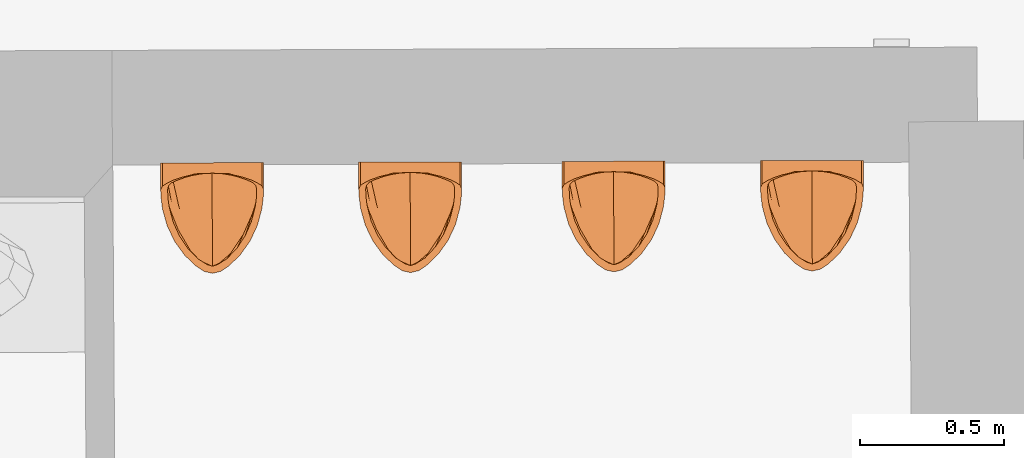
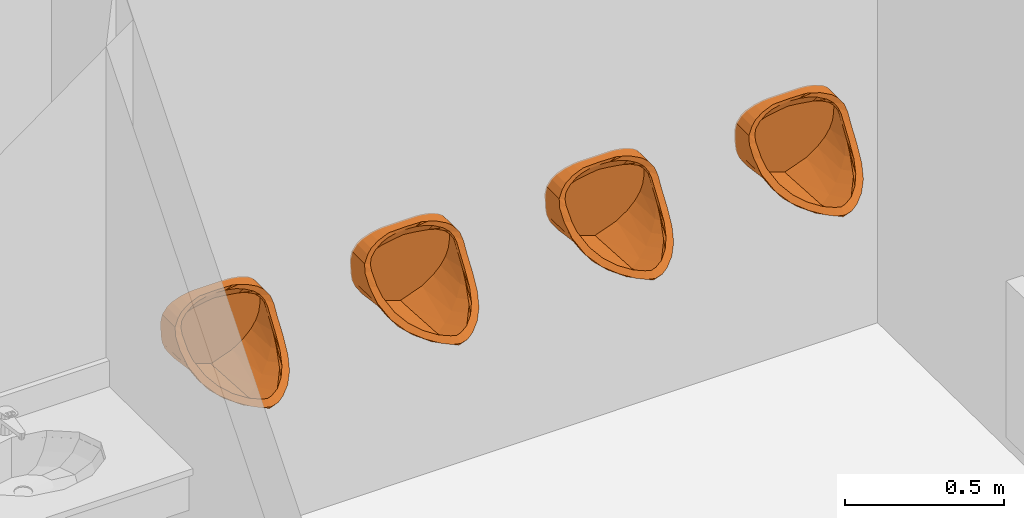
# One storey, part 188 of 196: 4 proxies.
"""IFC2X3 building model written with IfcOpenShell, lengths in metres."""

from ifc_helpers import new_model, entity, si_unit, converted_unit, derived_unit, money_unit, direction, frame, origin_with_axes, place, context, subcontext, project, spatial, open_shell, faceted_brep, surface_model, source, transform, mapped, type_object, element, save


model = new_model("IFC2X3")

# Units and contexts
model_context = context("Model", 3, precision=1e-05, world=origin_with_axes(), true_north=direction((0.0, 1.0)))
body_context = subcontext(model_context, "Body", "Model", "MODEL_VIEW")
ifc_project = project(units=[si_unit("LENGTHUNIT", "METRE"), si_unit("AREAUNIT", "SQUARE_METRE"), si_unit("VOLUMEUNIT", "CUBIC_METRE"), converted_unit("PLANEANGLEUNIT", "DEGREE", entity("IfcPlaneAngleMeasure", 0.0174532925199), si_unit("PLANEANGLEUNIT", "RADIAN"), dimensions=[0, 0, 0, 0, 0, 0, 0]), money_unit("EUR"), converted_unit("TIMEUNIT", "Year", entity("IfcTimeMeasure", 31556926.0), si_unit("TIMEUNIT", "SECOND"), dimensions=[0, 0, 1, 0, 0, 0, 0]), si_unit("MASSUNIT", "GRAM", prefix="KILO"), si_unit("THERMODYNAMICTEMPERATUREUNIT", "DEGREE_CELSIUS"), si_unit("LUMINOUSINTENSITYUNIT", "LUMEN"), si_unit("ENERGYUNIT", "JOULE", prefix="MEGA"), derived_unit("THERMALCONDUCTANCEUNIT", [(si_unit("POWERUNIT", "WATT"), 1), (si_unit("LENGTHUNIT", "METRE"), -1), (si_unit("THERMODYNAMICTEMPERATUREUNIT", "KELVIN"), -1)]), derived_unit("SPECIFICHEATCAPACITYUNIT", [(si_unit("ENERGYUNIT", "JOULE"), 1), (si_unit("MASSUNIT", "GRAM", prefix="KILO"), -1), (si_unit("THERMODYNAMICTEMPERATUREUNIT", "KELVIN"), -1)]), derived_unit("MASSDENSITYUNIT", [(si_unit("MASSUNIT", "GRAM", prefix="KILO"), 1), (si_unit("VOLUMEUNIT", "CUBIC_METRE"), -1)])], contexts=[model_context])

# Site, building, storey
site_placement = place(None, origin_with_axes())
site = spatial("IfcSite", under=ifc_project, at=site_placement, Name="Gelände", CompositionType="ELEMENT")
building_placement = place(site_placement, origin_with_axes())
building = spatial("IfcBuilding", under=site, at=building_placement, Name="Gebäude", CompositionType="ELEMENT")
storey_placement = place(building_placement, frame((0.0, 0.0, -3.0), z_axis=(0.0, 0.0, 1.0), x_axis=(1.0, 0.0, 0.0)))
storey = spatial("IfcBuildingStorey", under=building, at=storey_placement, Name="KELLERGESCHOSS", CompositionType="ELEMENT", Elevation=-3.0)

# Proxies
building_element_proxy_type = type_object("IfcBuildingElementProxyType", Name="Urinal 1 25", PredefinedType="NOTDEFINED")
shared_shape = source(origin_with_axes(), body_context, "Body", "SurfaceModel", [
    faceted_brep([(0.0, 0.00726484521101, 1.0), (-0.0601883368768, 0.00726484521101, 0.999898), (-0.0601883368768, 0.0, 0.999898), (0.0, 0.0, 1.0), (0.0601883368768, 0.00726484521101, 0.999898), (0.0776995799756, 0.00726484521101, 0.998525), (0.106389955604, 0.00726484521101, 0.993198), (0.13805050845, 0.00726484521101, 0.981535), (0.155730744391, 0.00726484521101, 0.969181), (0.173382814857, 0.00726484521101, 0.945871), (0.179234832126, 0.00726484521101, 0.920148), (0.178841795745, 0.00726484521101, 0.89263), (0.17766140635, 0.00726484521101, 0.865111), (0.173702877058, 0.00726484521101, 0.837593), (0.163136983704, 0.00726484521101, 0.810074), (0.144977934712, 0.00726484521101, 0.782556), (0.117396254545, 0.00726484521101, 0.755037), (0.0763297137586, 0.00726484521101, 0.727519), (0.0, 0.00726484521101, 0.7), (-0.0763297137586, 0.00726484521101, 0.727519), (-0.117396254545, 0.00726484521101, 0.755037), (-0.144977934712, 0.00726484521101, 0.782556), (-0.163136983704, 0.00726484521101, 0.810074), (-0.173702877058, 0.00726484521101, 0.837593), (-0.17766140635, 0.00726484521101, 0.865111), (-0.178841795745, 0.00726484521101, 0.89263), (-0.179234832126, 0.00726484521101, 0.920148), (-0.173382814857, 0.00726484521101, 0.945871), (-0.155730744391, 0.00726484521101, 0.969181), (-0.13805050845, 0.00726484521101, 0.981535), (-0.106389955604, 0.00726484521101, 0.993198), (-0.0776995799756, 0.00726484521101, 0.998525), (-0.0776995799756, 0.0, 0.998525), (-0.106389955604, 0.0, 0.993198), (-0.13805050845, 0.0, 0.981535), (-0.155730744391, 0.0, 0.969181), (-0.173382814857, 0.0, 0.945871), (-0.179234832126, 0.0, 0.920148), (-0.178841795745, 0.0, 0.89263), (-0.17766140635, 0.0, 0.865111), (-0.173702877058, 0.0, 0.837593), (-0.163136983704, 0.0, 0.810074), (-0.144977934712, 0.0, 0.782556), (-0.117396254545, 0.0, 0.755037), (-0.0763297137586, 0.0, 0.727519), (0.0, 0.0, 0.7), (0.0763297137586, 0.0, 0.727519), (0.117396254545, 0.0, 0.755037), (0.144977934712, 0.0, 0.782556), (0.163136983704, 0.0, 0.810074), (0.173702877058, 0.0, 0.837593), (0.17766140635, 0.0, 0.865111), (0.178841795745, 0.0, 0.89263), (0.179234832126, 0.0, 0.920148), (0.173382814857, 0.0, 0.945871), (0.155730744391, 0.0, 0.969181), (0.13805050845, 0.0, 0.981535), (0.106389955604, 0.0, 0.993198), (0.0776995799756, 0.0, 0.998525), (0.0601883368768, 0.0, 0.999898)], [[[0, 1, 2, 3]], [[0, 4, 5, 6, 7, 8, 9, 10, 11, 12, 13, 14, 15, 16, 17, 18, 19, 20, 21, 22, 23, 24, 25, 26, 27, 28, 29, 30, 31, 1]], [[1, 31, 32, 2]], [[3, 2, 32, 33, 34, 35, 36, 37, 38, 39, 40, 41, 42, 43, 44, 45, 46, 47, 48, 49, 50, 51, 52, 53, 54, 55, 56, 57, 58, 59]], [[4, 0, 3, 59]], [[5, 4, 59, 58]], [[6, 5, 58, 57]], [[7, 6, 57, 56]], [[8, 7, 56, 55]], [[9, 8, 55, 54]], [[10, 9, 54, 53]], [[11, 10, 53, 52]], [[12, 11, 52, 51]], [[13, 12, 51, 50]], [[14, 13, 50, 49]], [[15, 14, 49, 48]], [[16, 15, 48, 47]], [[17, 16, 47, 46]], [[18, 17, 46, 45]], [[19, 18, 45, 44]], [[20, 19, 44, 43]], [[21, 20, 43, 42]], [[22, 21, 42, 41]], [[23, 22, 41, 40]], [[24, 23, 40, 39]], [[25, 24, 39, 38]], [[26, 25, 38, 37]], [[27, 26, 37, 36]], [[28, 27, 36, 35]], [[29, 28, 35, 34]], [[30, 29, 34, 33]], [[31, 30, 33, 32]]]),
    surface_model("IfcShellBasedSurfaceModel", [(0.0, 0.0, 1.0), (0.0, -0.014529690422, 1.0), (-0.0601883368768, -0.014529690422, 0.999898), (0.0601883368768, 0.0, 0.999898), (-0.0601883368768, -0.0218439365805, 0.999898), (-0.0601883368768, 0.0, 0.999898), (0.0601883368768, -0.014529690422, 0.999898), (0.0, -0.021794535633, 1.0), (-0.0776995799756, -0.0225108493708, 0.998525), (-0.0776995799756, -0.014529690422, 0.998525), (0.0776995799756, 0.0, 0.998525), (-0.0601883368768, -0.0279623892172, 0.999898), (-0.0776995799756, -0.0289039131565, 0.998525), (-0.0776995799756, 0.0, 0.998525), (0.0776995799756, -0.014529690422, 0.998525), (0.0601883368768, -0.0218439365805, 0.999898), (0.0, -0.027886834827, 1.0), (-0.106389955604, -0.0327906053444, 0.993198), (-0.106389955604, -0.0250608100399, 0.993198), (-0.106389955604, -0.014529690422, 0.993198), (0.106389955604, 0.0, 0.993198), (-0.0601883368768, -0.0310499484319, 0.999898), (-0.0776995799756, -0.0363140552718, 0.998525), (-0.106389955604, -0.0430819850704, 0.993198), (-0.106389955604, 0.0, 0.993198), (0.106389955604, -0.014529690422, 0.993198), (0.0776995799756, -0.0225108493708, 0.998525), (0.0601883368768, -0.0279623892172, 0.999898), (0.0, -0.0290593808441, 1.0), (-0.13805050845, -0.053950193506, 0.981535), (-0.13805050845, -0.0408923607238, 0.981535), (-0.13805050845, -0.0304426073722, 0.981535), (-0.13805050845, -0.014529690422, 0.981535), (0.13805050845, 0.0, 0.981535), (-0.13805050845, 0.0, 0.981535), (0.13805050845, -0.014529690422, 0.981535), (0.106389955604, -0.0250608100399, 0.993198), (0.0776995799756, -0.0289039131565, 0.998525), (0.0601883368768, -0.0310499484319, 0.999898), (-0.155730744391, -0.0626636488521, 0.969181), (-0.155730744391, -0.0490624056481, 0.969181), (-0.155730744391, -0.0358476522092, 0.969181), (-0.155730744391, -0.014529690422, 0.969181), (0.155730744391, 0.0, 0.969181), (-0.155730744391, 0.0, 0.969181), (0.155730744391, -0.014529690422, 0.969181), (0.13805050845, -0.0304426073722, 0.981535), (0.106389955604, -0.0327906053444, 0.993198), (0.0776995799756, -0.0363140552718, 0.998525), (-0.173382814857, -0.0734330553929, 0.945871), (-0.173382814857, -0.0633625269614, 0.945871), (-0.173382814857, -0.0452309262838, 0.945871), (-0.173382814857, -0.014529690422, 0.945871), (0.173382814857, 0.0, 0.945871), (-0.173382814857, 0.0, 0.945871), (0.173382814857, -0.014529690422, 0.945871), (0.155730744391, -0.0358476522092, 0.969181), (0.13805050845, -0.0408923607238, 0.981535), (0.106389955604, -0.0430819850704, 0.993198), (-0.179234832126, -0.086207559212, 0.920148), (-0.179234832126, -0.0775158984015, 0.920148), (-0.179234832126, -0.0543715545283, 0.920148), (-0.179234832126, -0.014529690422, 0.920148), (0.179234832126, 0.0, 0.920148), (-0.179234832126, 0.0, 0.920148), (0.179234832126, -0.014529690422, 0.920148), (0.173382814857, -0.0452309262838, 0.945871), (0.155730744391, -0.0490624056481, 0.969181), (0.13805050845, -0.053950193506, 0.981535), (-0.178145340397, -0.111246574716, 0.882346), (-0.177966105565, -0.0971789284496, 0.888729), (-0.177434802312, -0.0650494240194, 0.893637), (-0.178841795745, -0.014529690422, 0.89263), (0.178841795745, 0.0, 0.89263), (-0.178841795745, 0.0, 0.89263), (0.178841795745, -0.014529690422, 0.89263), (0.179234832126, -0.0543715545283, 0.920148), (0.173382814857, -0.0633625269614, 0.945871), (0.155730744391, -0.0626636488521, 0.969181), (-0.17310244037, -0.153081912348, 0.842424), (-0.174460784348, -0.12252742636, 0.859303), (-0.174243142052, -0.0788192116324, 0.866246), (-0.17766140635, -0.014529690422, 0.865111), (0.17766140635, 0.0, 0.865111), (-0.17766140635, 0.0, 0.865111), (0.17766140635, -0.014529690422, 0.865111), (0.177434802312, -0.0650494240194, 0.893637), (0.179234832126, -0.0775158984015, 0.920148), (0.173382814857, -0.0734330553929, 0.945871), (-0.156961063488, -0.211826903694, 0.807653), (-0.169197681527, -0.153144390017, 0.832354), (-0.164825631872, -0.102361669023, 0.829001), (-0.173702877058, -0.014529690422, 0.837593), (0.173702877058, 0.0, 0.837593), (-0.173702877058, 0.0, 0.837593), (0.173702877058, -0.014529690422, 0.837593), (0.174243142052, -0.0788192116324, 0.866246), (0.177966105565, -0.0971789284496, 0.888729), (0.179234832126, -0.086207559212, 0.920148), (-0.131059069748, -0.266551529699, 0.787417), (-0.158971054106, -0.188525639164, 0.808327), (-0.141409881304, -0.131682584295, 0.792232), (-0.163136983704, -0.014529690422, 0.810074), (0.163136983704, 0.0, 0.810074), (-0.163136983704, 0.0, 0.810074), (0.163136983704, -0.014529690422, 0.810074), (0.164825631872, -0.102361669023, 0.829001), (0.174460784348, -0.12252742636, 0.859303), (0.178145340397, -0.111246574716, 0.882346), (-0.0960135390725, -0.315179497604, 0.776444), (-0.141945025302, -0.228088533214, 0.787618), (-0.113240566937, -0.157697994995, 0.76517), (-0.144977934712, -0.014529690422, 0.782556), (0.144977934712, 0.0, 0.782556), (-0.144977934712, 0.0, 0.782556), (0.144977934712, -0.014529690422, 0.782556), (0.141409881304, -0.131682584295, 0.792232), (0.169197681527, -0.153144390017, 0.832354), (0.17310244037, -0.153081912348, 0.842424), (-0.0580797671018, -0.35154731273, 0.768676), (-0.112637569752, -0.271179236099, 0.770567), (-0.0788326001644, -0.183254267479, 0.742159), (-0.117396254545, -0.014529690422, 0.755037), (0.117396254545, 0.0, 0.755037), (-0.117396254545, 0.0, 0.755037), (0.117396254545, -0.014529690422, 0.755037), (0.113240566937, -0.157697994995, 0.76517), (0.158971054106, -0.188525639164, 0.808327), (0.156961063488, -0.211826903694, 0.807653), (-0.0283421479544, -0.371326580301, 0.765137), (-0.0704712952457, -0.317088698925, 0.757456), (-0.0400897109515, -0.207819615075, 0.724265), (-0.0763297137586, -0.014529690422, 0.727519), (0.0763297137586, 0.0, 0.727519), (-0.0763297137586, 0.0, 0.727519), (0.0763297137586, -0.014529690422, 0.727519), (0.0788326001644, -0.183254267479, 0.742159), (0.141945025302, -0.228088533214, 0.787618), (0.131059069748, -0.266551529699, 0.787417), (0.0, -0.377771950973, 0.763229), (0.0, -0.365059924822, 0.748501), (0.0, -0.230016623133, 0.712313), (0.0, -0.014529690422, 0.7), (0.0, 0.0, 0.7), (0.0400897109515, -0.207819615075, 0.724265), (0.112637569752, -0.271179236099, 0.770567), (0.0960135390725, -0.315179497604, 0.776444), (0.0283421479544, -0.371326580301, 0.765137), (0.0704712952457, -0.317088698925, 0.757456), (0.0580797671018, -0.35154731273, 0.768676)], [open_shell([[[0, 1, 2]], [[3, 1, 0]], [[1, 4, 2]], [[0, 2, 5]], [[3, 6, 1]], [[1, 7, 4]], [[2, 4, 8]], [[5, 2, 9]], [[10, 6, 3]], [[6, 7, 1]], [[7, 11, 4]], [[4, 12, 8]], [[2, 8, 9]], [[5, 9, 13]], [[10, 14, 6]], [[6, 15, 7]], [[7, 16, 11]], [[4, 11, 12]], [[8, 12, 17]], [[9, 8, 18]], [[13, 9, 19]], [[20, 14, 10]], [[14, 15, 6]], [[15, 16, 7]], [[16, 21, 11]], [[11, 22, 12]], [[12, 23, 17]], [[8, 17, 18]], [[9, 18, 19]], [[13, 19, 24]], [[20, 25, 14]], [[14, 26, 15]], [[15, 27, 16]], [[16, 28, 21]], [[11, 21, 22]], [[12, 22, 23]], [[17, 23, 29]], [[18, 17, 30]], [[19, 18, 31]], [[24, 19, 32]], [[33, 25, 20]], [[25, 26, 14]], [[26, 27, 15]], [[27, 28, 16]], [[17, 29, 30]], [[18, 30, 31]], [[19, 31, 32]], [[24, 32, 34]], [[33, 35, 25]], [[25, 36, 26]], [[26, 37, 27]], [[27, 38, 28]], [[30, 29, 39]], [[31, 30, 40]], [[32, 31, 41]], [[34, 32, 42]], [[43, 35, 33]], [[35, 36, 25]], [[36, 37, 26]], [[37, 38, 27]], [[30, 39, 40]], [[31, 40, 41]], [[32, 41, 42]], [[34, 42, 44]], [[43, 45, 35]], [[35, 46, 36]], [[36, 47, 37]], [[37, 48, 38]], [[40, 39, 49]], [[41, 40, 50]], [[42, 41, 51]], [[44, 42, 52]], [[53, 45, 43]], [[45, 46, 35]], [[46, 47, 36]], [[47, 48, 37]], [[40, 49, 50]], [[41, 50, 51]], [[42, 51, 52]], [[44, 52, 54]], [[53, 55, 45]], [[45, 56, 46]], [[46, 57, 47]], [[47, 58, 48]], [[50, 49, 59]], [[51, 50, 60]], [[52, 51, 61]], [[54, 52, 62]], [[63, 55, 53]], [[55, 56, 45]], [[56, 57, 46]], [[57, 58, 47]], [[50, 59, 60]], [[51, 60, 61]], [[52, 61, 62]], [[54, 62, 64]], [[63, 65, 55]], [[55, 66, 56]], [[56, 67, 57]], [[57, 68, 58]], [[60, 59, 69]], [[61, 60, 70]], [[62, 61, 71]], [[64, 62, 72]], [[73, 65, 63]], [[65, 66, 55]], [[66, 67, 56]], [[67, 68, 57]], [[60, 69, 70]], [[61, 70, 71]], [[62, 71, 72]], [[64, 72, 74]], [[73, 75, 65]], [[65, 76, 66]], [[66, 77, 67]], [[67, 78, 68]], [[70, 69, 79]], [[71, 70, 80]], [[72, 71, 81]], [[74, 72, 82]], [[83, 75, 73]], [[75, 76, 65]], [[76, 77, 66]], [[77, 78, 67]], [[70, 79, 80]], [[71, 80, 81]], [[72, 81, 82]], [[74, 82, 84]], [[83, 85, 75]], [[75, 86, 76]], [[76, 87, 77]], [[77, 88, 78]], [[80, 79, 89]], [[81, 80, 90]], [[82, 81, 91]], [[84, 82, 92]], [[93, 85, 83]], [[85, 86, 75]], [[86, 87, 76]], [[87, 88, 77]], [[80, 89, 90]], [[81, 90, 91]], [[82, 91, 92]], [[84, 92, 94]], [[93, 95, 85]], [[85, 96, 86]], [[86, 97, 87]], [[87, 98, 88]], [[90, 89, 99]], [[91, 90, 100]], [[92, 91, 101]], [[94, 92, 102]], [[103, 95, 93]], [[95, 96, 85]], [[96, 97, 86]], [[97, 98, 87]], [[90, 99, 100]], [[91, 100, 101]], [[92, 101, 102]], [[94, 102, 104]], [[103, 105, 95]], [[95, 106, 96]], [[96, 107, 97]], [[97, 108, 98]], [[100, 99, 109]], [[101, 100, 110]], [[102, 101, 111]], [[104, 102, 112]], [[113, 105, 103]], [[105, 106, 95]], [[106, 107, 96]], [[107, 108, 97]], [[100, 109, 110]], [[101, 110, 111]], [[102, 111, 112]], [[104, 112, 114]], [[113, 115, 105]], [[105, 116, 106]], [[106, 117, 107]], [[107, 118, 108]], [[110, 109, 119]], [[111, 110, 120]], [[112, 111, 121]], [[114, 112, 122]], [[123, 115, 113]], [[115, 116, 105]], [[116, 117, 106]], [[117, 118, 107]], [[110, 119, 120]], [[111, 120, 121]], [[112, 121, 122]], [[114, 122, 124]], [[123, 125, 115]], [[115, 126, 116]], [[116, 127, 117]], [[117, 128, 118]], [[120, 119, 129]], [[121, 120, 130]], [[122, 121, 131]], [[124, 122, 132]], [[133, 125, 123]], [[125, 126, 115]], [[126, 127, 116]], [[127, 128, 117]], [[120, 129, 130]], [[121, 130, 131]], [[122, 131, 132]], [[124, 132, 134]], [[133, 135, 125]], [[125, 136, 126]], [[126, 137, 127]], [[127, 138, 128]], [[130, 129, 139]], [[131, 130, 140]], [[132, 131, 141]], [[134, 132, 142]], [[143, 135, 133]], [[135, 136, 125]], [[136, 137, 126]], [[137, 138, 127]], [[130, 139, 140]], [[131, 140, 141]], [[132, 141, 142]], [[134, 142, 143]], [[143, 142, 135]], [[135, 144, 136]], [[136, 145, 137]], [[137, 146, 138]], [[140, 139, 147]], [[141, 140, 148]], [[142, 141, 144]], [[142, 144, 135]], [[144, 145, 136]], [[145, 146, 137]], [[140, 147, 148]], [[141, 148, 144]], [[144, 148, 145]], [[145, 149, 146]], [[148, 147, 149]], [[148, 149, 145]]])]),
    surface_model("IfcShellBasedSurfaceModel", [(0.0, -0.0290593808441, 1.0), (0.0, -0.0290593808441, 0.99), (-0.0353681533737, -0.0310499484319, 0.988966), (0.0601883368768, -0.0310499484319, 0.999898), (-0.0601883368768, -0.0310499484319, 0.999898), (0.0353681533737, -0.0310499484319, 0.988966), (-0.0673026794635, -0.0363140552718, 0.98626), (0.0776995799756, -0.0363140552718, 0.998525), (-0.0776995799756, -0.0363140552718, 0.998525), (0.0673026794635, -0.0363140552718, 0.98626), (-0.0931739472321, -0.0430819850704, 0.98082), (0.106389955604, -0.0430819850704, 0.993198), (-0.106389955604, -0.0430819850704, 0.993198), (0.0931739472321, -0.0430819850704, 0.98082), (-0.123287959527, -0.053950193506, 0.968491), (0.13805050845, -0.053950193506, 0.981535), (-0.13805050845, -0.053950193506, 0.981535), (0.123287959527, -0.053950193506, 0.968491), (-0.142665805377, -0.0626636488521, 0.952746), (0.155730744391, -0.0626636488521, 0.969181), (-0.155730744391, -0.0626636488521, 0.969181), (0.142665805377, -0.0626636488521, 0.952746), (-0.152265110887, -0.0734330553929, 0.936322), (0.173382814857, -0.0734330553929, 0.945871), (-0.173382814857, -0.0734330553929, 0.945871), (0.152265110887, -0.0734330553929, 0.936322), (-0.155137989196, -0.086207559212, 0.920148), (0.179234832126, -0.086207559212, 0.920148), (-0.179234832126, -0.086207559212, 0.920148), (0.155137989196, -0.086207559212, 0.920148), (-0.153565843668, -0.119110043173, 0.87807), (0.178145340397, -0.111246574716, 0.882346), (-0.178145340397, -0.111246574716, 0.882346), (0.153565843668, -0.119110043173, 0.87807), (-0.150150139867, -0.14462999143, 0.854025), (0.17310244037, -0.153081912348, 0.842424), (-0.17310244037, -0.153081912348, 0.842424), (0.150150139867, -0.14462999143, 0.854025), (-0.136313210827, -0.198219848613, 0.821972), (0.156961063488, -0.211826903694, 0.807653), (-0.156961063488, -0.211826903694, 0.807653), (0.136313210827, -0.198219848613, 0.821972), (-0.11481783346, -0.246696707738, 0.801839), (0.131059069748, -0.266551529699, 0.787417), (-0.131059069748, -0.266551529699, 0.787417), (0.11481783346, -0.246696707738, 0.801839), (-0.0872361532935, -0.288603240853, 0.790008), (0.0960135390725, -0.315179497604, 0.776444), (-0.0960135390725, -0.315179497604, 0.776444), (0.0872361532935, -0.288603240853, 0.790008), (-0.0513699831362, -0.326620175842, 0.783002), (0.0580797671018, -0.35154731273, 0.768676), (-0.0580797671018, -0.35154731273, 0.768676), (0.0513699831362, -0.326620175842, 0.783002), (-0.0188516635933, -0.347076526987, 0.78057), (0.0283421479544, -0.371326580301, 0.765137), (-0.0283421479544, -0.371326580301, 0.765137), (0.0188516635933, -0.347076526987, 0.78057), (0.0, -0.353404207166, 0.78), (0.0, -0.377771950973, 0.763229)], [open_shell([[[0, 1, 2]], [[3, 1, 0]], [[0, 2, 4]], [[3, 5, 1]], [[4, 2, 6]], [[7, 5, 3]], [[4, 6, 8]], [[7, 9, 5]], [[8, 6, 10]], [[11, 9, 7]], [[8, 10, 12]], [[11, 13, 9]], [[12, 10, 14]], [[15, 13, 11]], [[12, 14, 16]], [[15, 17, 13]], [[16, 14, 18]], [[19, 17, 15]], [[16, 18, 20]], [[19, 21, 17]], [[20, 18, 22]], [[23, 21, 19]], [[20, 22, 24]], [[23, 25, 21]], [[24, 22, 26]], [[27, 25, 23]], [[24, 26, 28]], [[27, 29, 25]], [[28, 26, 30]], [[31, 29, 27]], [[28, 30, 32]], [[31, 33, 29]], [[32, 30, 34]], [[35, 33, 31]], [[32, 34, 36]], [[35, 37, 33]], [[36, 34, 38]], [[39, 37, 35]], [[36, 38, 40]], [[39, 41, 37]], [[40, 38, 42]], [[43, 41, 39]], [[40, 42, 44]], [[43, 45, 41]], [[44, 42, 46]], [[47, 45, 43]], [[44, 46, 48]], [[47, 49, 45]], [[48, 46, 50]], [[51, 49, 47]], [[48, 50, 52]], [[51, 53, 49]], [[52, 50, 54]], [[55, 53, 51]], [[52, 54, 56]], [[55, 57, 53]], [[56, 54, 58]], [[59, 57, 55]], [[56, 58, 59]], [[59, 58, 57]]])]),
    surface_model("IfcShellBasedSurfaceModel", [(0.0, -0.0290593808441, 0.99), (0.0, -0.02082831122, 0.965651), (-0.0327858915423, -0.0241817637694, 0.964581), (0.0353681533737, -0.0310499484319, 0.988966), (-0.0353681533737, -0.0310499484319, 0.988966), (0.0327858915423, -0.0241817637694, 0.964581), (-0.0600731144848, -0.0270557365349, 0.962521), (0.0673026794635, -0.0363140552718, 0.98626), (-0.0673026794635, -0.0363140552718, 0.98626), (0.0600731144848, -0.0270557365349, 0.962521), (-0.0850379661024, -0.029024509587, 0.959712), (0.0931739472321, -0.0430819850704, 0.98082), (-0.0931739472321, -0.0430819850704, 0.98082), (0.0850379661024, -0.029024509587, 0.959712), (-0.109900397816, -0.0320946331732, 0.954245), (0.123287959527, -0.053950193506, 0.968491), (-0.123287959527, -0.053950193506, 0.968491), (0.109900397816, -0.0320946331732, 0.954245), (-0.133764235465, -0.036114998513, 0.945674), (0.142665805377, -0.0626636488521, 0.952746), (-0.142665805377, -0.0626636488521, 0.952746), (0.133764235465, -0.036114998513, 0.945674), (-0.147747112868, -0.0402661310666, 0.937494), (0.152265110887, -0.0734330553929, 0.936322), (-0.152265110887, -0.0734330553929, 0.936322), (0.147747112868, -0.0402661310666, 0.937494), (-0.16279899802, -0.046718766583, 0.920148), (0.155137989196, -0.086207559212, 0.920148), (-0.155137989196, -0.086207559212, 0.920148), (0.16279899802, -0.046718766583, 0.920148), (-0.163467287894, -0.0642546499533, 0.892365), (0.153565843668, -0.119110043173, 0.87807), (-0.153565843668, -0.119110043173, 0.87807), (0.163467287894, -0.0642546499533, 0.892365), (-0.161951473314, -0.0879816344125, 0.864684), (0.150150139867, -0.14462999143, 0.854025), (-0.150150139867, -0.14462999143, 0.854025), (0.161951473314, -0.0879816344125, 0.864684), (-0.156877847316, -0.118863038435, 0.837549), (0.136313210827, -0.198219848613, 0.821972), (-0.136313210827, -0.198219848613, 0.821972), (0.156877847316, -0.118863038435, 0.837549), (-0.145347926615, -0.158556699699, 0.811391), (0.11481783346, -0.246696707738, 0.801839), (-0.11481783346, -0.246696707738, 0.801839), (0.145347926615, -0.158556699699, 0.811391), (-0.118136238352, -0.226716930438, 0.780769), (0.0872361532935, -0.288603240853, 0.790008), (-0.0872361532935, -0.288603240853, 0.790008), (0.118136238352, -0.226716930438, 0.780769), (-0.0771490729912, -0.297260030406, 0.762219), (0.0513699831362, -0.326620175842, 0.783002), (-0.0513699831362, -0.326620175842, 0.783002), (0.0771490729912, -0.297260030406, 0.762219), (-0.043346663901, -0.333831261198, 0.756815), (0.0188516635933, -0.347076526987, 0.78057), (-0.0188516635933, -0.347076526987, 0.78057), (0.043346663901, -0.333831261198, 0.756815), (0.0, -0.353404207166, 0.755), (0.0, -0.353404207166, 0.78)], [open_shell([[[0, 1, 2]], [[3, 1, 0]], [[0, 2, 4]], [[3, 5, 1]], [[4, 2, 6]], [[7, 5, 3]], [[4, 6, 8]], [[7, 9, 5]], [[8, 6, 10]], [[11, 9, 7]], [[8, 10, 12]], [[11, 13, 9]], [[12, 10, 14]], [[15, 13, 11]], [[12, 14, 16]], [[15, 17, 13]], [[16, 14, 18]], [[19, 17, 15]], [[16, 18, 20]], [[19, 21, 17]], [[20, 18, 22]], [[23, 21, 19]], [[20, 22, 24]], [[23, 25, 21]], [[24, 22, 26]], [[27, 25, 23]], [[24, 26, 28]], [[27, 29, 25]], [[28, 26, 30]], [[31, 29, 27]], [[28, 30, 32]], [[31, 33, 29]], [[32, 30, 34]], [[35, 33, 31]], [[32, 34, 36]], [[35, 37, 33]], [[36, 34, 38]], [[39, 37, 35]], [[36, 38, 40]], [[39, 41, 37]], [[40, 38, 42]], [[43, 41, 39]], [[40, 42, 44]], [[43, 45, 41]], [[44, 42, 46]], [[47, 45, 43]], [[44, 46, 48]], [[47, 49, 45]], [[48, 46, 50]], [[51, 49, 47]], [[48, 50, 52]], [[51, 53, 49]], [[52, 50, 54]], [[55, 53, 51]], [[52, 54, 56]], [[55, 57, 53]], [[56, 54, 58]], [[59, 57, 55]], [[56, 58, 59]], [[59, 58, 57]]])]),
])
for number, where, z_axis, x_axis, name in (
    (1, (-19.3202212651, 42.1891645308, 0.368098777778), (0.0, 0.0, 1.0), (0.999992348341, 0.00391193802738, 0.0), "Objekt-00219"),
    (2, (-20.0110245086, 42.1865612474, 0.368098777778), (0.0, 0.0, 1.0), (0.999992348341, 0.00391193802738, 0.0), "Objekt-00219"),
    (3, (-20.7196469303, 42.1838908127, 0.368098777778), (0.0, 0.0, 1.0), (0.999992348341, 0.00391193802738, 0.0), "Objekt-00219"),
    (4, (-21.4095168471, 42.1813168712, 0.368098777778), (0.0, 0.0, 1.0), (0.999992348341, 0.00391193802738, 0.0), "Objekt-00219"),
):
    element("IfcBuildingElementProxy", number, at=place(storey_placement, frame(where, z_axis=z_axis, x_axis=x_axis)), inside=storey, type_object=building_element_proxy_type, Name=name, context=body_context, shape_type="MappedRepresentation", body=[
        mapped(shared_shape, transform((0.0, 0.0, 0.0))),
    ])

save(model, "model.ifc")
